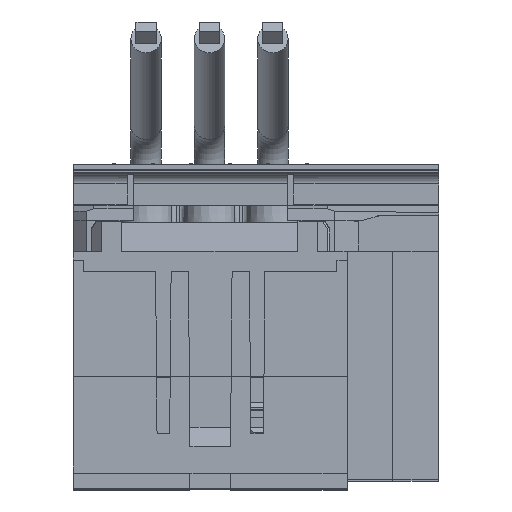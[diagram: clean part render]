
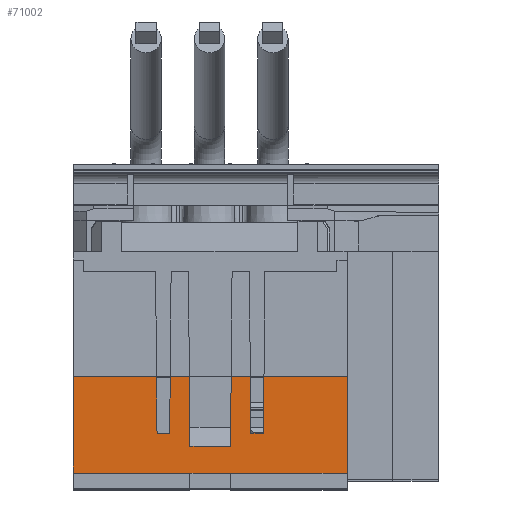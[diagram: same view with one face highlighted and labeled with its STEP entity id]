
A CAD part, top view. The second image highlights one B-rep face of the part: STEP entity #71002.
In plain terms, the highlighted planar face has unit normal (0, -0.009, 1).
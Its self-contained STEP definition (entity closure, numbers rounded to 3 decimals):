
#79 = CARTESIAN_POINT ( 'NONE',  ( -4.003, -18.18, 199.88 ) ) ;
#84 = CARTESIAN_POINT ( 'NONE',  ( 10.598, -4.5, 199.999 ) ) ;
#247 = ORIENTED_EDGE ( 'NONE', *, *, #25949, .T. ) ;
#394 = VERTEX_POINT ( 'NONE', #51145 ) ;
#542 = LINE ( 'NONE', #30427, #19845 ) ;
#1862 = VERTEX_POINT ( 'NONE', #64397 ) ;
#3566 = ORIENTED_EDGE ( 'NONE', *, *, #72330, .T. ) ;
#3676 = CARTESIAN_POINT ( 'NONE',  ( 4., -23.5, 199.833 ) ) ;
#4115 = DIRECTION ( 'NONE',  ( -1., 0., 0. ) ) ;
#4494 = DIRECTION ( 'NONE',  ( -0.009, -1., -0.009 ) ) ;
#4586 = LINE ( 'NONE', #27057, #69104 ) ;
#5209 = EDGE_CURVE ( 'NONE', #45759, #29094, #70888, .T. ) ;
#5995 = VERTEX_POINT ( 'NONE', #22309 ) ;
#7344 = ORIENTED_EDGE ( 'NONE', *, *, #74133, .T. ) ;
#7884 = VECTOR ( 'NONE', #65351, 1000. ) ;
#8043 = EDGE_CURVE ( 'NONE', #55581, #44542, #71236, .T. ) ;
#8762 = VECTOR ( 'NONE', #57047, 1000. ) ;
#8855 = CARTESIAN_POINT ( 'NONE',  ( -26., -4.5, 199.999 ) ) ;
#8919 = CARTESIAN_POINT ( 'NONE',  ( 27., -4.5, 199.999 ) ) ;
#9295 = VERTEX_POINT ( 'NONE', #24654 ) ;
#9559 = ORIENTED_EDGE ( 'NONE', *, *, #53226, .T. ) ;
#10779 = DIRECTION ( 'NONE',  ( 1., 0., 0. ) ) ;
#11185 = VECTOR ( 'NONE', #10779, 1000. ) ;
#11462 = EDGE_CURVE ( 'NONE', #72593, #29094, #32212, .T. ) ;
#12848 = ORIENTED_EDGE ( 'NONE', *, *, #59211, .T. ) ;
#13110 = VERTEX_POINT ( 'NONE', #8919 ) ;
#13713 = DIRECTION ( 'NONE',  ( 1., 0., 0. ) ) ;
#14297 = CARTESIAN_POINT ( 'NONE',  ( -10.5, -15.7, 199.902 ) ) ;
#14654 = VECTOR ( 'NONE', #50662, 1000. ) ;
#15092 = LINE ( 'NONE', #51669, #43637 ) ;
#15186 = LINE ( 'NONE', #74299, #8762 ) ;
#15417 = DIRECTION ( 'NONE',  ( 0., 1., 0.009 ) ) ;
#16765 = LINE ( 'NONE', #57669, #28765 ) ;
#16951 = CARTESIAN_POINT ( 'NONE',  ( -26., -4.5, 199.999 ) ) ;
#17503 = VERTEX_POINT ( 'NONE', #14297 ) ;
#18452 = DIRECTION ( 'NONE',  ( -0.009, -1., -0.009 ) ) ;
#18896 = ORIENTED_EDGE ( 'NONE', *, *, #48943, .T. ) ;
#19494 = ORIENTED_EDGE ( 'NONE', *, *, #21581, .T. ) ;
#19845 = VECTOR ( 'NONE', #36597, 1000. ) ;
#20579 = CARTESIAN_POINT ( 'NONE',  ( 10.778, 16.2, 200.18 ) ) ;
#21581 = EDGE_CURVE ( 'NONE', #5995, #69551, #42561, .T. ) ;
#21859 = ORIENTED_EDGE ( 'NONE', *, *, #29458, .T. ) ;
#22309 = CARTESIAN_POINT ( 'NONE',  ( -4., -23.5, 199.833 ) ) ;
#22409 = DIRECTION ( 'NONE',  ( 0., -1., -0.009 ) ) ;
#22506 = ORIENTED_EDGE ( 'NONE', *, *, #36927, .F. ) ;
#22744 = EDGE_CURVE ( 'NONE', #55581, #9295, #16765, .T. ) ;
#22930 = VERTEX_POINT ( 'NONE', #66114 ) ;
#23251 = VERTEX_POINT ( 'NONE', #34933 ) ;
#24208 = CARTESIAN_POINT ( 'NONE',  ( -26., -18.18, 199.88 ) ) ;
#24654 = CARTESIAN_POINT ( 'NONE',  ( -27., -23.5, 199.833 ) ) ;
#24987 = ORIENTED_EDGE ( 'NONE', *, *, #8043, .F. ) ;
#25579 = CARTESIAN_POINT ( 'NONE',  ( -8., -15.7, 199.902 ) ) ;
#25833 = CARTESIAN_POINT ( 'NONE',  ( -26., -4.5, 199.999 ) ) ;
#25949 = EDGE_CURVE ( 'NONE', #75018, #67650, #45025, .T. ) ;
#26440 = EDGE_CURVE ( 'NONE', #72277, #13110, #60600, .T. ) ;
#27057 = CARTESIAN_POINT ( 'NONE',  ( 4., -23.5, 199.833 ) ) ;
#28765 = VECTOR ( 'NONE', #22409, 1000. ) ;
#29094 = VERTEX_POINT ( 'NONE', #61533 ) ;
#29458 = EDGE_CURVE ( 'NONE', #1862, #36250, #68733, .T. ) ;
#29854 = CARTESIAN_POINT ( 'NONE',  ( -7.902, -4.5, 199.999 ) ) ;
#30362 = LINE ( 'NONE', #20579, #14654 ) ;
#30427 = CARTESIAN_POINT ( 'NONE',  ( -10.5, -15.7, 199.902 ) ) ;
#30952 = CARTESIAN_POINT ( 'NONE',  ( 8., -15.7, 199.902 ) ) ;
#32001 = VECTOR ( 'NONE', #54008, 1000. ) ;
#32212 = LINE ( 'NONE', #25833, #57077 ) ;
#32405 = ORIENTED_EDGE ( 'NONE', *, *, #11462, .F. ) ;
#32543 = DIRECTION ( 'NONE',  ( 1., 0., 0. ) ) ;
#33360 = CARTESIAN_POINT ( 'NONE',  ( -26., -4.5, 199.999 ) ) ;
#33490 = CARTESIAN_POINT ( 'NONE',  ( 4.122, -4.5, 199.999 ) ) ;
#34041 = LINE ( 'NONE', #36282, #62603 ) ;
#34210 = ORIENTED_EDGE ( 'NONE', *, *, #37375, .T. ) ;
#34933 = CARTESIAN_POINT ( 'NONE',  ( -4.122, -4.5, 199.999 ) ) ;
#36250 = VERTEX_POINT ( 'NONE', #79 ) ;
#36282 = CARTESIAN_POINT ( 'NONE',  ( -26., -23.5, 199.833 ) ) ;
#36597 = DIRECTION ( 'NONE',  ( -0.009, 1., 0.009 ) ) ;
#36927 = EDGE_CURVE ( 'NONE', #75018, #23251, #52221, .T. ) ;
#37375 = EDGE_CURVE ( 'NONE', #36250, #23251, #15186, .T. ) ;
#37738 = LINE ( 'NONE', #61074, #67181 ) ;
#38103 = CARTESIAN_POINT ( 'NONE',  ( -27., -4.5, 199.999 ) ) ;
#40594 = CARTESIAN_POINT ( 'NONE',  ( 8., -15.7, 199.902 ) ) ;
#42098 = AXIS2_PLACEMENT_3D ( 'NONE', #66418, #48905, #74375 ) ;
#42561 = LINE ( 'NONE', #52746, #11185 ) ;
#42580 = LINE ( 'NONE', #50667, #60947 ) ;
#43637 = VECTOR ( 'NONE', #4115, 1000. ) ;
#44542 = VERTEX_POINT ( 'NONE', #59028 ) ;
#45025 = LINE ( 'NONE', #71481, #76334 ) ;
#45440 = DIRECTION ( 'NONE',  ( 1., 0., 0. ) ) ;
#45759 = VERTEX_POINT ( 'NONE', #40594 ) ;
#48629 = VECTOR ( 'NONE', #45440, 1000. ) ;
#48905 = DIRECTION ( 'NONE',  ( 0., -0.009, 1. ) ) ;
#48943 = EDGE_CURVE ( 'NONE', #22930, #13110, #42580, .T. ) ;
#50662 = DIRECTION ( 'NONE',  ( -0.009, -1., -0.009 ) ) ;
#50667 = CARTESIAN_POINT ( 'NONE',  ( 27., 18.5, 200.2 ) ) ;
#50987 = VECTOR ( 'NONE', #32543, 1000. ) ;
#51145 = CARTESIAN_POINT ( 'NONE',  ( 10.5, -15.7, 199.902 ) ) ;
#51157 = ORIENTED_EDGE ( 'NONE', *, *, #56777, .T. ) ;
#51669 = CARTESIAN_POINT ( 'NONE',  ( -26., -15.7, 199.902 ) ) ;
#51950 = DIRECTION ( 'NONE',  ( 1., 0., 0. ) ) ;
#52221 = LINE ( 'NONE', #16951, #32001 ) ;
#52746 = CARTESIAN_POINT ( 'NONE',  ( -26., -23.5, 199.833 ) ) ;
#53226 = EDGE_CURVE ( 'NONE', #67650, #17503, #15092, .T. ) ;
#54008 = DIRECTION ( 'NONE',  ( 1., 0., 0. ) ) ;
#54859 = CARTESIAN_POINT ( 'NONE',  ( -26., -15.7, 199.902 ) ) ;
#55581 = VERTEX_POINT ( 'NONE', #38103 ) ;
#56215 = ORIENTED_EDGE ( 'NONE', *, *, #5209, .T. ) ;
#56602 = EDGE_CURVE ( 'NONE', #72277, #394, #30362, .T. ) ;
#56777 = EDGE_CURVE ( 'NONE', #69551, #22930, #34041, .T. ) ;
#57047 = DIRECTION ( 'NONE',  ( -0.009, 1., 0.009 ) ) ;
#57077 = VECTOR ( 'NONE', #13713, 1000. ) ;
#57669 = CARTESIAN_POINT ( 'NONE',  ( -27., 18.5, 200.2 ) ) ;
#58970 = VECTOR ( 'NONE', #66432, 1000. ) ;
#59028 = CARTESIAN_POINT ( 'NONE',  ( -10.598, -4.5, 199.999 ) ) ;
#59211 = EDGE_CURVE ( 'NONE', #17503, #44542, #542, .T. ) ;
#60600 = LINE ( 'NONE', #33360, #48629 ) ;
#60947 = VECTOR ( 'NONE', #15417, 1000. ) ;
#61074 = CARTESIAN_POINT ( 'NONE',  ( 4.303, 16.2, 200.18 ) ) ;
#61533 = CARTESIAN_POINT ( 'NONE',  ( 7.902, -4.5, 199.999 ) ) ;
#62603 = VECTOR ( 'NONE', #70194, 1000. ) ;
#63766 = FACE_OUTER_BOUND ( 'NONE', #66837, .T. ) ;
#63983 = ORIENTED_EDGE ( 'NONE', *, *, #73100, .T. ) ;
#64397 = CARTESIAN_POINT ( 'NONE',  ( 4.003, -18.18, 199.88 ) ) ;
#65337 = VECTOR ( 'NONE', #66168, 1000. ) ;
#65351 = DIRECTION ( 'NONE',  ( -1., 0., 0. ) ) ;
#66114 = CARTESIAN_POINT ( 'NONE',  ( 27., -23.5, 199.833 ) ) ;
#66168 = DIRECTION ( 'NONE',  ( -0.009, 1., 0.009 ) ) ;
#66418 = CARTESIAN_POINT ( 'NONE',  ( -26., 18.5, 200.2 ) ) ;
#66432 = DIRECTION ( 'NONE',  ( -1., 0., 0. ) ) ;
#66450 = ORIENTED_EDGE ( 'NONE', *, *, #56602, .T. ) ;
#66837 = EDGE_LOOP ( 'NONE', ( #24987, #71315, #63983, #19494, #51157, #18896, #67643, #66450, #3566, #56215, #32405, #7344, #21859, #34210, #22506, #247, #9559, #12848 ) ) ;
#67181 = VECTOR ( 'NONE', #4494, 1000. ) ;
#67643 = ORIENTED_EDGE ( 'NONE', *, *, #26440, .F. ) ;
#67650 = VERTEX_POINT ( 'NONE', #25579 ) ;
#68733 = LINE ( 'NONE', #24208, #7884 ) ;
#69104 = VECTOR ( 'NONE', #51950, 1000. ) ;
#69551 = VERTEX_POINT ( 'NONE', #3676 ) ;
#70194 = DIRECTION ( 'NONE',  ( 1., 0., 0. ) ) ;
#70888 = LINE ( 'NONE', #30952, #65337 ) ;
#71002 = ADVANCED_FACE ( 'NONE', ( #63766 ), #73092, .T. ) ;
#71236 = LINE ( 'NONE', #8855, #50987 ) ;
#71315 = ORIENTED_EDGE ( 'NONE', *, *, #22744, .T. ) ;
#71481 = CARTESIAN_POINT ( 'NONE',  ( -7.722, 16.2, 200.18 ) ) ;
#72277 = VERTEX_POINT ( 'NONE', #84 ) ;
#72330 = EDGE_CURVE ( 'NONE', #394, #45759, #73737, .T. ) ;
#72593 = VERTEX_POINT ( 'NONE', #33490 ) ;
#73092 = PLANE ( 'NONE',  #42098 ) ;
#73100 = EDGE_CURVE ( 'NONE', #9295, #5995, #4586, .T. ) ;
#73737 = LINE ( 'NONE', #54859, #58970 ) ;
#74133 = EDGE_CURVE ( 'NONE', #72593, #1862, #37738, .T. ) ;
#74299 = CARTESIAN_POINT ( 'NONE',  ( -4.003, -18.18, 199.88 ) ) ;
#74375 = DIRECTION ( 'NONE',  ( 0., -1., -0.009 ) ) ;
#75018 = VERTEX_POINT ( 'NONE', #29854 ) ;
#76334 = VECTOR ( 'NONE', #18452, 1000. ) ;
